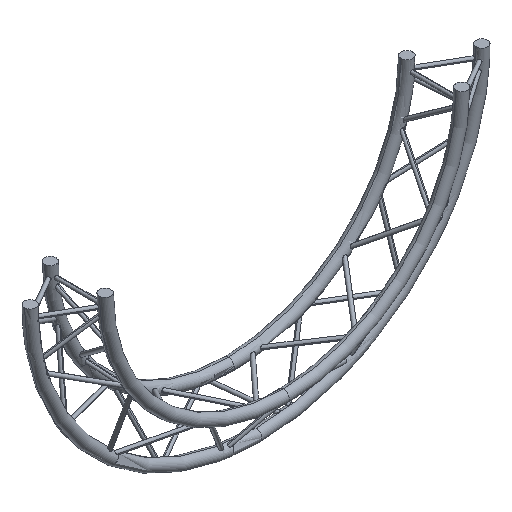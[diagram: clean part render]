
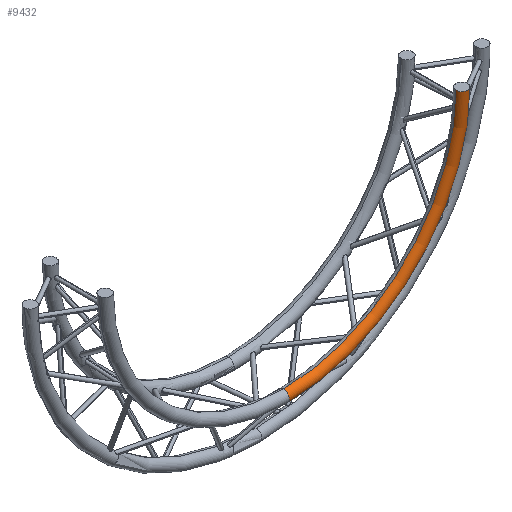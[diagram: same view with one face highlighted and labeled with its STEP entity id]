
A CAD part, isometric view. The second image highlights one B-rep face of the part: STEP entity #9432.
In plain terms, the highlighted toroidal (fillet/blend) face has major radius 769.752 mm and minor radius 25 mm.
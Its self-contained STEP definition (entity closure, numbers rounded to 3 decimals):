
#3913 = CARTESIAN_POINT ( 'NONE',  ( 794.752, -118.5, 0. ) ) ;
#4217 = DIRECTION ( 'NONE',  ( 0., 0., -1. ) ) ;
#4218 = DIRECTION ( 'NONE',  ( 0., -1., 0. ) ) ;
#4219 = CARTESIAN_POINT ( 'NONE',  ( 0., -118.5, 0. ) ) ;
#4220 = AXIS2_PLACEMENT_3D ( 'NONE', #4219, #4218, #4217 ) ;
#4221 = CIRCLE ( 'NONE', #4220, 794.752 ) ;
#4324 = CARTESIAN_POINT ( 'NONE',  ( 0., -118.5, -769.752 ) ) ;
#4331 = CARTESIAN_POINT ( 'NONE',  ( 744.752, -118.5, 0. ) ) ;
#4333 = DIRECTION ( 'NONE',  ( 0., 0., -1. ) ) ;
#4334 = DIRECTION ( 'NONE',  ( 0., -1., 0. ) ) ;
#4335 = CARTESIAN_POINT ( 'NONE',  ( 0., -118.5, 0. ) ) ;
#4336 = AXIS2_PLACEMENT_3D ( 'NONE', #4335, #4334, #4333 ) ;
#4337 = CIRCLE ( 'NONE', #4336, 744.752 ) ;
#4338 = DIRECTION ( 'NONE',  ( 1., 0., 0. ) ) ;
#4339 = DIRECTION ( 'NONE',  ( 0., 0., 1. ) ) ;
#4340 = CARTESIAN_POINT ( 'NONE',  ( 769.752, -118.5, 0. ) ) ;
#4341 = AXIS2_PLACEMENT_3D ( 'NONE', #4340, #4339, #4338 ) ;
#4345 = CIRCLE ( 'NONE', #4341, 25. ) ;
#4418 = CARTESIAN_POINT ( 'NONE',  ( 0., -118.5, -744.752 ) ) ;
#4419 = CARTESIAN_POINT ( 'NONE',  ( 0., -118.5, -794.752 ) ) ;
#4425 = DIRECTION ( 'NONE',  ( 0., 0., 1. ) ) ;
#4426 = DIRECTION ( 'NONE',  ( -1., 0., 0. ) ) ;
#4427 = AXIS2_PLACEMENT_3D ( 'NONE', #4324, #4426, #4425 ) ;
#4428 = CIRCLE ( 'NONE', #4427, 25. ) ;
#4545 = AXIS2_PLACEMENT_3D ( 'NONE', #4574, #4573, #4572 ) ;
#4546 = TOROIDAL_SURFACE ( 'NONE', #4545, 769.752, 25. ) ;
#4548 = FACE_OUTER_BOUND ( 'NONE', #9411, .T. ) ;
#4572 = DIRECTION ( 'NONE',  ( 0., 0., -1. ) ) ;
#4573 = DIRECTION ( 'NONE',  ( 0., -1., 0. ) ) ;
#4574 = CARTESIAN_POINT ( 'NONE',  ( 0., -118.5, 0. ) ) ;
#9336 = ORIENTED_EDGE ( 'NONE', *, *, #9410, .F. ) ;
#9356 = VERTEX_POINT ( 'NONE', #3913 ) ;
#9384 = EDGE_CURVE ( 'NONE', #9415, #9356, #4221, .T. ) ;
#9391 = ORIENTED_EDGE ( 'NONE', *, *, #9398, .F. ) ;
#9398 = EDGE_CURVE ( 'NONE', #9404, #9356, #4345, .T. ) ;
#9400 = EDGE_CURVE ( 'NONE', #9420, #9404, #4337, .T. ) ;
#9402 = ORIENTED_EDGE ( 'NONE', *, *, #9400, .F. ) ;
#9404 = VERTEX_POINT ( 'NONE', #4331 ) ;
#9410 = EDGE_CURVE ( 'NONE', #9415, #9420, #4428, .T. ) ;
#9411 = EDGE_LOOP ( 'NONE', ( #9336, #9414, #9391, #9402 ) ) ;
#9414 = ORIENTED_EDGE ( 'NONE', *, *, #9384, .T. ) ;
#9415 = VERTEX_POINT ( 'NONE', #4419 ) ;
#9420 = VERTEX_POINT ( 'NONE', #4418 ) ;
#9432 = ADVANCED_FACE ( 'NONE', ( #4548 ), #4546, .T. ) ;
